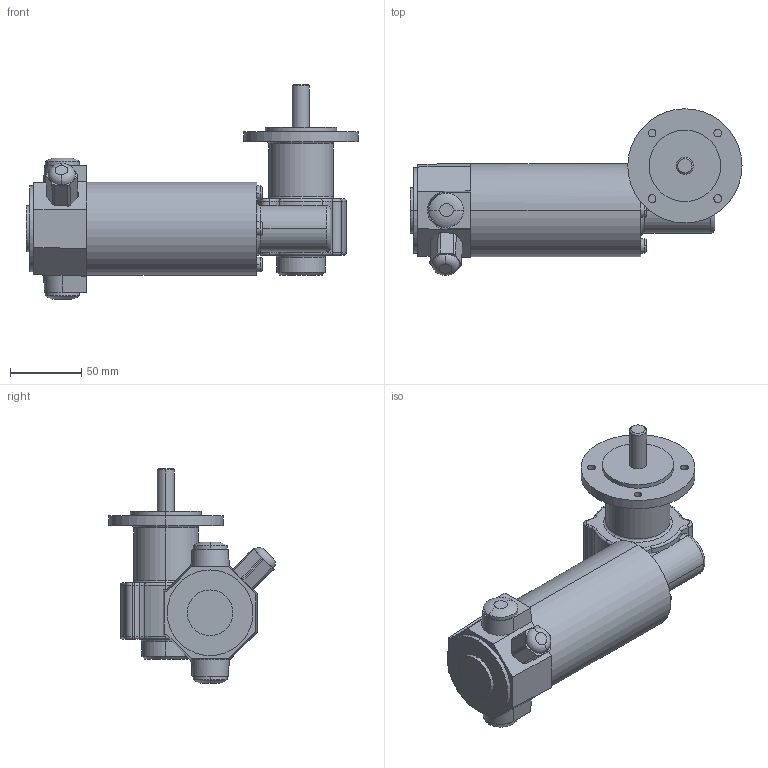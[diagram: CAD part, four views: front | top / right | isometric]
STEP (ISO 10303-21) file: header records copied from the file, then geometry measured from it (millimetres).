
FILE_DESCRIPTION(('OneSpaceDesigner STEP Export'),'2;1');
FILE_NAME('EPG04_GF127.stp','2008-07-02T14:48:04',(''),(''),'OneSpace Designer STEP processor (Jan. 2003) for AP214(CD)(Solid Model)','OneSpace Designer 12.01D 09-Jul-2004 (C) CoCreate Software GmbH','');
FILE_SCHEMA(('AUTOMOTIVE_DESIGN_CC2 {1 2 10303 214 -1 1 5 1}'));
Length unit declared in the file: millimetre
Products named in the file (2): EPG04_GF127
Assembly tree (1 placements, depth 2):
  EPG04_GF127
    EPG04_GF127
Bounding box: 232.5 x 116.58 x 150.5 mm (x, y, z)
Volume: 844252.8 mm3; surface area: 76628.3 mm2
Topology: 1 solids, 1 shells, 209 faces, 505 edges, 313 vertices
Faces by surface type: cylinder 83, torus 72, plane 48, cone 4, bspline 2
Entity records: 7600 total; most frequent: CARTESIAN_POINT 3173, ORIENTED_EDGE 1010, DIRECTION 839, EDGE_CURVE 505, AXIS2_PLACEMENT_3D 346, VERTEX_POINT 313, EDGE_LOOP 232, CIRCLE 210
